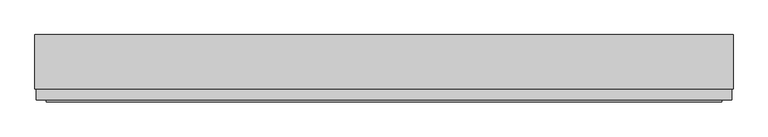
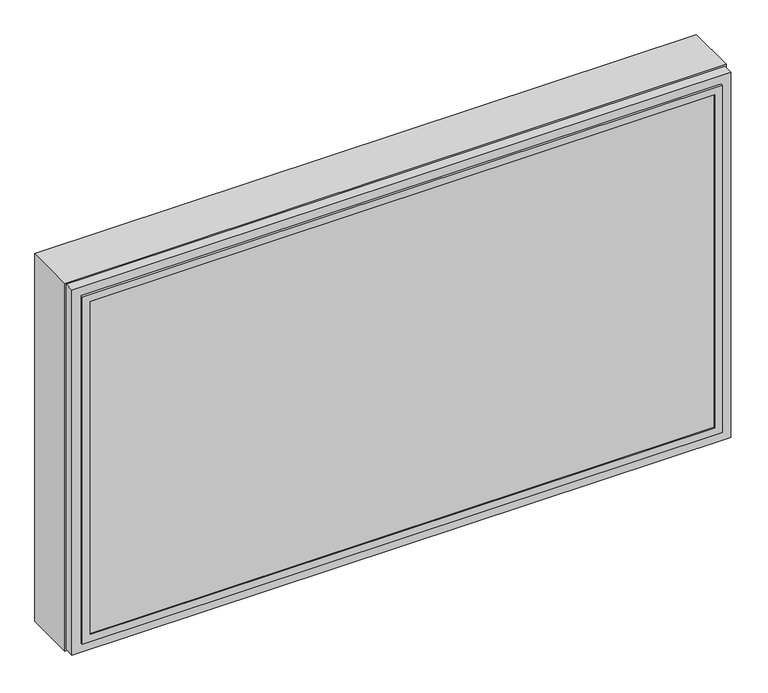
"""IFC4 building model written with IfcOpenShell, lengths in millimetres: plate geometry, SCISSOR PANEL : SCISSOR PANEL."""

from ifc_helpers import new_model, si_unit, frame, origin, place, context, project, spatial, polyline, outline, extrude, faceted_brep, source, transform, mapped, element, save


def plate_795dbca1(model_context):
    return source(origin(), model_context, "Body", "SolidModel", [
        extrude(outline(polyline([(1000.0, -850.0), (0.0, -850.0), (0.0, 850.0), (1000.0, 850.0), (1000.0, -850.0)]), holes=[polyline([(17.5, -832.5), (982.5, -832.5), (982.5, 832.5), (17.5, 832.5), (17.5, -832.5)])]), frame((0.0, -132.5, 0.0), z_axis=(0.0, 1.0, 0.0), x_axis=(0.0, 0.0, 1.0)), (0.0, 0.0, 1.0), 132.5),
        extrude(outline(polyline([(-819.5, -160.5), (-819.5, -135.5), (819.5, -135.5), (819.5, -160.5), (-819.5, -160.5)])), frame((0.0, 0.0, 30.5), z_axis=(0.0, 0.0, 1.0), x_axis=(1.0, 0.0, 0.0)), (0.0, 0.0, 1.0), 939.0),
        faceted_brep([(-802.5, -135.5, 952.5), (-802.5, -135.5, 47.5), (-802.5, -132.5, 47.5), (-802.5, -132.5, 952.5), (-819.5, -160.5, 969.5), (-819.5, -160.5, 30.5), (-819.5, -135.5, 30.5), (-819.5, -135.5, 969.5), (-802.5, -163.5, 952.5), (-802.5, -163.5, 47.5), (-802.5, -160.5, 47.5), (-802.5, -160.5, 952.5), (-822.5, -132.5, 972.5), (-822.5, -132.5, 27.5), (-822.5, -163.5, 27.5), (-822.5, -163.5, 972.5), (802.5, -135.5, 47.5), (802.5, -132.5, 47.5), (819.5, -160.5, 30.5), (819.5, -135.5, 30.5), (802.5, -163.5, 47.5), (802.5, -160.5, 47.5), (822.5, -132.5, 27.5), (822.5, -163.5, 27.5), (802.5, -135.5, 952.5), (802.5, -132.5, 952.5), (819.5, -160.5, 969.5), (819.5, -135.5, 969.5), (802.5, -163.5, 952.5), (802.5, -160.5, 952.5), (822.5, -132.5, 972.5), (822.5, -163.5, 972.5)], [[[0, 1, 2, 3]], [[4, 5, 6, 7]], [[8, 9, 10, 11]], [[12, 13, 14, 15]], [[1, 16, 17, 2]], [[5, 18, 19, 6]], [[9, 20, 21, 10]], [[13, 22, 23, 14]], [[16, 24, 25, 17]], [[18, 26, 27, 19]], [[20, 28, 29, 21]], [[22, 30, 31, 23]], [[13, 12, 30, 22], [3, 2, 17, 25]], [[24, 0, 3, 25]], [[7, 6, 19, 27], [1, 0, 24, 16]], [[26, 4, 7, 27]], [[5, 4, 26, 18], [11, 10, 21, 29]], [[28, 8, 11, 29]], [[15, 14, 23, 31], [9, 8, 28, 20]], [[30, 12, 15, 31]]]),
        faceted_brep([(-846.5, -132.5, 996.5), (-846.5, -132.5, 3.5), (-846.5, -158.75, 3.5), (-846.5, -158.75, 996.5), (-839.5, -150.0, 989.5), (-839.5, -150.0, 10.5), (-839.5, -132.5, 10.5), (-839.5, -132.5, 989.5), (-832.5, -123.75, 982.5), (-832.5, -123.75, 17.5), (-832.5, -150.0, 17.5), (-832.5, -150.0, 982.5), (-822.5, -158.75, 972.5), (-822.5, -158.75, 27.5), (-822.5, -123.75, 27.5), (-822.5, -123.75, 972.5), (846.5, -132.5, 3.5), (846.5, -158.75, 3.5), (839.5, -150.0, 10.5), (839.5, -132.5, 10.5), (832.5, -123.75, 17.5), (832.5, -150.0, 17.5), (822.5, -158.75, 27.5), (822.5, -123.75, 27.5), (846.5, -132.5, 996.5), (846.5, -158.75, 996.5), (839.5, -150.0, 989.5), (839.5, -132.5, 989.5), (832.5, -123.75, 982.5), (832.5, -150.0, 982.5), (822.5, -158.75, 972.5), (822.5, -123.75, 972.5)], [[[0, 1, 2, 3]], [[4, 5, 6, 7]], [[8, 9, 10, 11]], [[12, 13, 14, 15]], [[1, 16, 17, 2]], [[5, 18, 19, 6]], [[9, 20, 21, 10]], [[13, 22, 23, 14]], [[16, 24, 25, 17]], [[18, 26, 27, 19]], [[20, 28, 29, 21]], [[22, 30, 31, 23]], [[24, 0, 3, 25]], [[1, 0, 24, 16], [7, 6, 19, 27]], [[26, 4, 7, 27]], [[5, 4, 26, 18], [11, 10, 21, 29]], [[28, 8, 11, 29]], [[9, 8, 28, 20], [15, 14, 23, 31]], [[30, 12, 15, 31]], [[3, 2, 17, 25], [13, 12, 30, 22]]]),
        extrude(outline(polyline([(989.5, -839.5), (10.5, -839.5), (10.5, 839.5), (989.5, 839.5), (989.5, -839.5)]), holes=[polyline([(982.5, -832.5), (982.5, 832.5), (17.5, 832.5), (17.5, -832.5), (982.5, -832.5)])]), frame((0.0, -150.0, 0.0), z_axis=(0.0, 1.0, 0.0), x_axis=(0.0, 0.0, 1.0)), (0.0, 0.0, 1.0), 17.5),
    ])


if __name__ == "__main__":
    model = new_model("IFC4")
    model_context = context("Model", 3, world=origin())
    ifc_project = project(units=[si_unit("LENGTHUNIT", "METRE", prefix="MILLI")], contexts=[model_context])
    site = spatial("IfcSite", under=ifc_project)
    building = spatial("IfcBuilding", under=site)
    placement = place(None, origin())
    plate_shape = plate_795dbca1(model_context)
    element("IfcPlate", 1, ObjectType="SCISSOR PANEL : SCISSOR PANEL", at=placement, inside=building, context=model_context, shape_type="MappedRepresentation", body=[
        mapped(plate_shape, transform((0.0, 0.0, 0.0), x_axis=(1.0, 0.0, 0.0), y_axis=(0.0, 1.0, 0.0), z_axis=(0.0, 0.0, 1.0))),
    ])
    save(model, "model.ifc")
